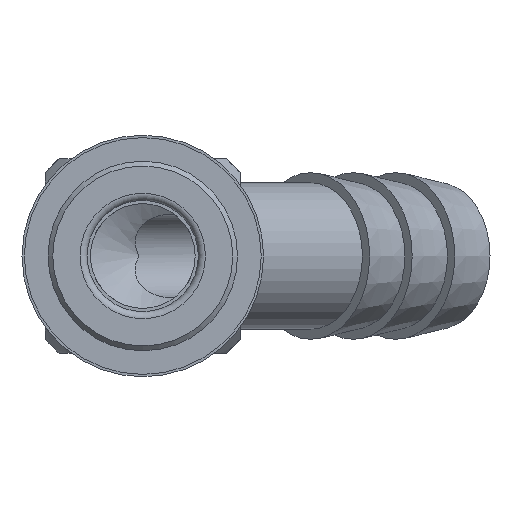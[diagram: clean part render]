
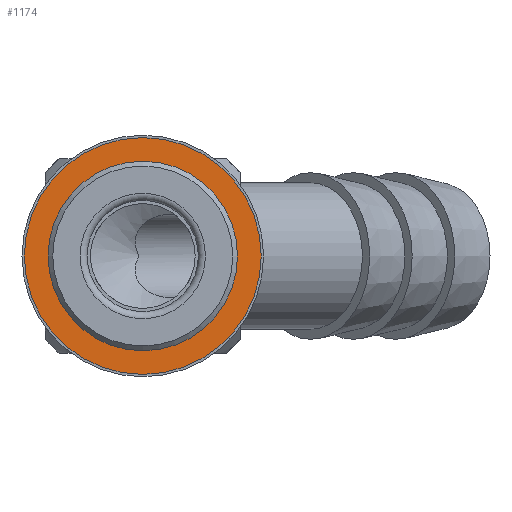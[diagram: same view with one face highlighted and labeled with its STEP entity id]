
A CAD part, left-side view. The second image highlights one B-rep face of the part: STEP entity #1174.
In plain terms, the highlighted planar face has unit normal (-1, 0, 0).
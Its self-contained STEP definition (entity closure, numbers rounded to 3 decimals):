
#160=PLANE('',#1305);
#263=CIRCLE('',#1304,6.8);
#264=CIRCLE('',#1306,8.5);
#352=ORIENTED_EDGE('',*,*,#668,.F.);
#353=ORIENTED_EDGE('',*,*,#667,.T.);
#667=EDGE_CURVE('',#822,#822,#263,.T.);
#668=EDGE_CURVE('',#823,#823,#264,.T.);
#822=VERTEX_POINT('',#1936);
#823=VERTEX_POINT('',#1939);
#928=EDGE_LOOP('',(#352));
#929=EDGE_LOOP('',(#353));
#1048=FACE_BOUND('',#928,.T.);
#1049=FACE_BOUND('',#929,.T.);
#1174=ADVANCED_FACE('',(#1048,#1049),#160,.F.);
#1304=AXIS2_PLACEMENT_3D('',#1935,#1514,#1515);
#1305=AXIS2_PLACEMENT_3D('',#1937,#1516,#1517);
#1306=AXIS2_PLACEMENT_3D('',#1938,#1518,#1519);
#1514=DIRECTION('',(1.,0.,0.));
#1515=DIRECTION('',(0.,0.,-1.));
#1516=DIRECTION('',(1.,0.,0.));
#1517=DIRECTION('',(0.,0.,-1.));
#1518=DIRECTION('',(1.,0.,0.));
#1519=DIRECTION('',(0.,0.,-1.));
#1935=CARTESIAN_POINT('',(0.,0.,0.));
#1936=CARTESIAN_POINT('',(0.,0.,-6.8));
#1937=CARTESIAN_POINT('',(0.,6.8,0.));
#1938=CARTESIAN_POINT('',(0.,0.,0.));
#1939=CARTESIAN_POINT('',(0.,0.,-8.5));
